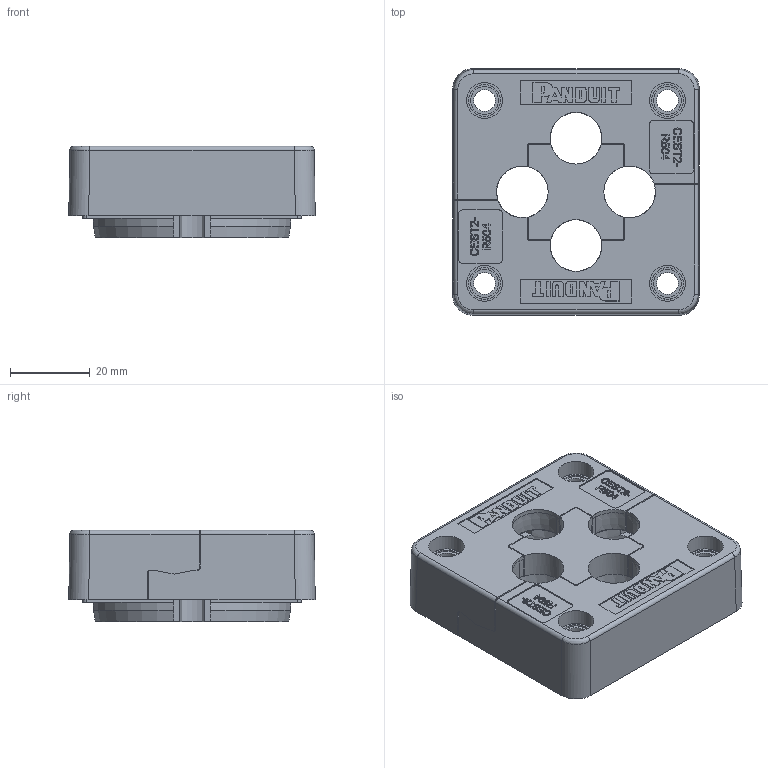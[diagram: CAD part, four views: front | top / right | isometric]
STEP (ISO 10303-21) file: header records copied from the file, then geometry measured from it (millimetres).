
FILE_DESCRIPTION(/* description */ (''),/* implementation_level */ '2;1');
FILE_NAME(/* name */ 'CEST2-R504.stp',/* time_stamp */ '2022-09-26T15:54:22-05:00',/* author */ (''),/* organization */ (''),/* preprocessor_version */ 'ST-DEVELOPER v16.7',/* originating_system */ 'SIEMENS PLM Software NX 1926',/* authorisation */ '');
FILE_SCHEMA (('AP203_CONFIGURATION_CONTROLLED_3D_DESIGN_OF_MECHANICAL_PARTS_AND_ASSEMBLIES_MIM_LF { 1 0 10303 403 2 1 2}'));
Products named in the file (1): MDS48881902tjsz
Bounding box: 62 x 62 x 23 mm (x, y, z)
Volume: 54121.5 mm3; surface area: 29157 mm2
Topology: 4 solids, 4 shells, 1555 faces, 3972 edges, 2500 vertices
Faces by surface type: plane 733, cylinder 343, extrusion 197, bspline 172, cone 45, torus 41, sphere 24
Full cylindrical faces by diameter (mm): 5 x8, 5.5 x8, 7 x4, 8 x4, 9 x4
Entity records: 52804 total; most frequent: CARTESIAN_POINT 17138, ORIENTED_EDGE 7828, DIRECTION 6283, EDGE_CURVE 3914, VECTOR 2523, VERTEX_POINT 2495, LINE 2326, AXIS2_PLACEMENT_3D 1880
